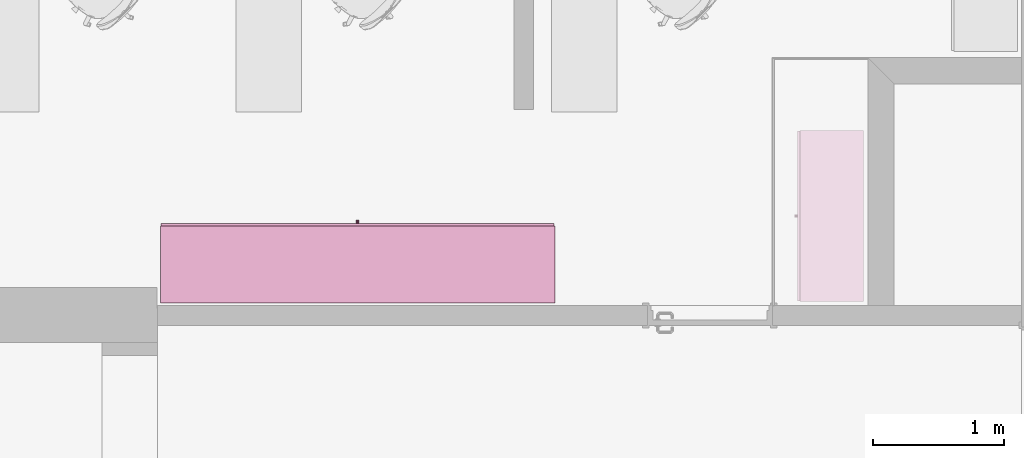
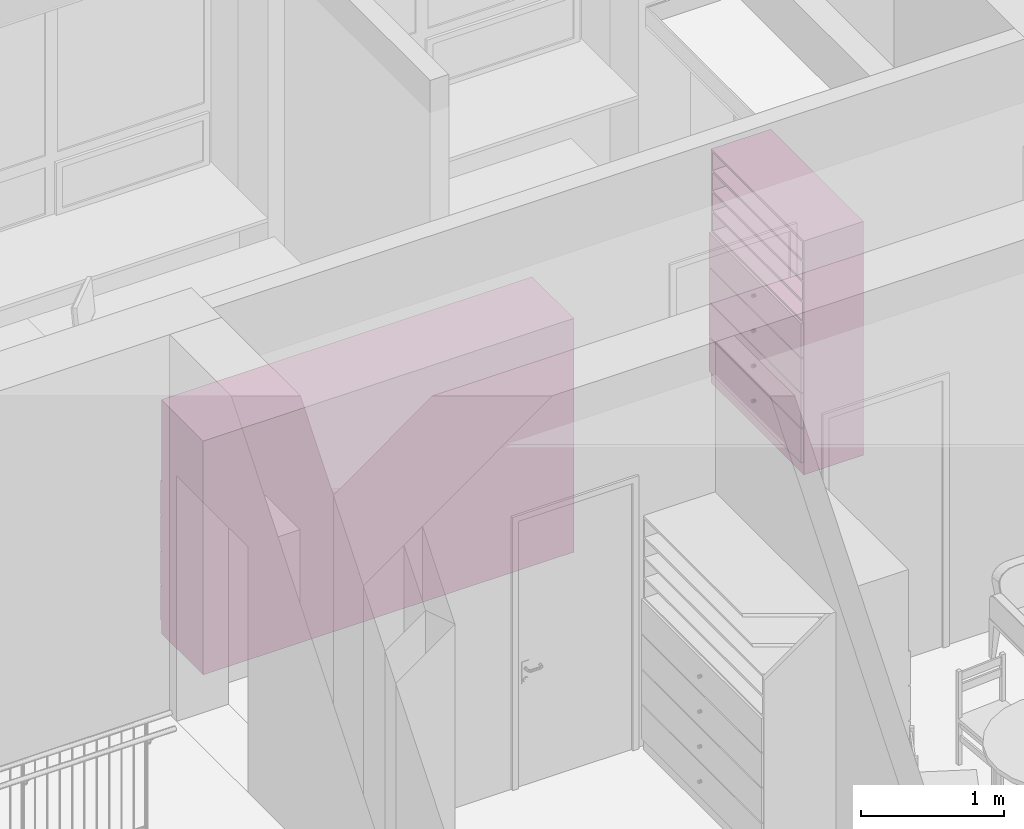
# One storey, part 164 of 194: 2 furnishings.
"""IFC2X3 building model written with IfcOpenShell, lengths in millimetres."""

from ifc_helpers import new_model, entity, si_unit, converted_unit, derived_unit, money_unit, direction, frame, origin_with_axes, place, context, subcontext, project, spatial, faceted_brep, type_object, element, save


model = new_model("IFC2X3")

# Units and contexts
model_context = context("Model", 3, precision=1e-05, world=origin_with_axes(), true_north=direction((0.0, 1.0)))
body_context = subcontext(model_context, "Body", "Model", "MODEL_VIEW")
ifc_project = project(units=[si_unit("LENGTHUNIT", "METRE", prefix="MILLI"), si_unit("AREAUNIT", "SQUARE_METRE"), si_unit("VOLUMEUNIT", "CUBIC_METRE"), converted_unit("PLANEANGLEUNIT", "DEGREE", entity("IfcPlaneAngleMeasure", 0.0174532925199), si_unit("PLANEANGLEUNIT", "RADIAN"), dimensions=[0, 0, 0, 0, 0, 0, 0]), si_unit("SOLIDANGLEUNIT", "STERADIAN"), money_unit("EUR"), converted_unit("TIMEUNIT", "Year", entity("IfcTimeMeasure", 31556926.0), si_unit("TIMEUNIT", "SECOND"), dimensions=[0, 0, 1, 0, 0, 0, 0]), si_unit("MASSUNIT", "GRAM", prefix="KILO"), si_unit("THERMODYNAMICTEMPERATUREUNIT", "DEGREE_CELSIUS"), si_unit("LUMINOUSINTENSITYUNIT", "LUMEN"), si_unit("ENERGYUNIT", "JOULE", prefix="MEGA"), derived_unit("THERMALCONDUCTANCEUNIT", [(si_unit("POWERUNIT", "WATT"), 1), (si_unit("LENGTHUNIT", "METRE"), -1), (si_unit("THERMODYNAMICTEMPERATUREUNIT", "KELVIN"), -1)]), derived_unit("SPECIFICHEATCAPACITYUNIT", [(si_unit("ENERGYUNIT", "JOULE"), 1), (si_unit("MASSUNIT", "GRAM", prefix="KILO"), -1), (si_unit("THERMODYNAMICTEMPERATUREUNIT", "KELVIN"), -1)]), derived_unit("MASSDENSITYUNIT", [(si_unit("MASSUNIT", "GRAM", prefix="KILO"), 1), (si_unit("VOLUMEUNIT", "CUBIC_METRE"), -1)])], contexts=[model_context])

# Site, building, storey
site_placement = place(None, origin_with_axes())
site = spatial("IfcSite", under=ifc_project, at=site_placement, Name="Site", CompositionType="ELEMENT")
building_placement = place(site_placement, origin_with_axes())
building = spatial("IfcBuilding", under=site, at=building_placement, Name="Building", CompositionType="ELEMENT")
storey_placement = place(building_placement, frame((0.0, 0.0, 3000.0), z_axis=(0.0, 0.0, 1.0), x_axis=(1.0, 0.0, 0.0)))
storey = spatial("IfcBuildingStorey", under=building, at=storey_placement, Name="2 KORRUS", CompositionType="ELEMENT", Elevation=3000.0)

# Furnishings
furnishing_element_type_1 = type_object("IfcFurnishingElementType", Name="Model Element 9")
furnishing_1_placement = place(storey_placement, frame((36028.7409007, 44283.4309311, 0.0), z_axis=(0.0, 0.0, 1.0), x_axis=(-0.000642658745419, -0.999999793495, 0.0)))
element("IfcFurnishingElement", 1, at=furnishing_1_placement, inside=storey, type_object=furnishing_element_type_1, Name="FU - 001", context=body_context, shape_type="Brep", body=[
    faceted_brep([(1300.32194222, 19.0, 0.0), (0.0, 19.0, 0.0), (0.0, 500.953504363, 0.0), (1300.32194222, 500.953504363, 0.0), (1300.32194222, 19.0, 100.0), (0.0, 19.0, 100.0), (0.0, 500.953504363, 100.0), (1300.32194222, 500.953504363, 100.0)], [[[0, 1, 2, 3]], [[1, 0, 4, 5]], [[2, 1, 5, 6]], [[3, 2, 6, 7]], [[0, 3, 7, 4]], [[5, 4, 7, 6]]]),
    faceted_brep([(19.0, 500.953504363, 119.0), (19.0, 481.953504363, 119.0), (19.0, 481.953504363, 1981.0), (19.0, 500.953504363, 1981.0), (1281.32194222, 500.953504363, 119.0), (1281.32194222, 481.953504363, 119.0), (1281.32194222, 481.953504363, 1981.0), (1281.32194222, 500.953504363, 1981.0)], [[[0, 1, 2, 3]], [[0, 4, 5, 1]], [[1, 5, 6, 2]], [[3, 2, 6, 7]], [[4, 0, 3, 7]], [[5, 4, 7, 6]]]),
    faceted_brep([(1300.32194222, 19.0, 100.0), (1281.32194222, 19.0, 100.0), (1281.32194222, 500.953504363, 100.0), (1300.32194222, 500.953504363, 100.0), (1300.32194222, 19.0, 2000.0), (1281.32194222, 19.0, 2000.0), (1281.32194222, 500.953504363, 2000.0), (1300.32194222, 500.953504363, 2000.0)], [[[0, 1, 2, 3]], [[1, 0, 4, 5]], [[2, 1, 5, 6]], [[3, 2, 6, 7]], [[0, 3, 7, 4]], [[5, 4, 7, 6]]]),
    faceted_brep([(19.0, 19.0, 100.0), (0.0, 19.0, 100.0), (0.0, 500.953504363, 100.0), (19.0, 500.953504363, 100.0), (19.0, 19.0, 2000.0), (0.0, 19.0, 2000.0), (0.0, 500.953504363, 2000.0), (19.0, 500.953504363, 2000.0)], [[[0, 1, 2, 3]], [[1, 0, 4, 5]], [[2, 1, 5, 6]], [[3, 2, 6, 7]], [[0, 3, 7, 4]], [[5, 4, 7, 6]]]),
    faceted_brep([(1281.32194222, 19.0, 100.0), (19.0, 19.0, 100.0), (19.0, 500.953504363, 100.0), (1281.32194222, 500.953504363, 100.0), (1281.32194222, 19.0, 119.0), (19.0, 19.0, 119.0), (19.0, 500.953504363, 119.0), (1281.32194222, 500.953504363, 119.0)], [[[0, 1, 2, 3]], [[1, 0, 4, 5]], [[2, 1, 5, 6]], [[3, 2, 6, 7]], [[0, 3, 7, 4]], [[5, 4, 7, 6]]]),
    faceted_brep([(1281.32194222, 19.0, 1981.0), (19.0, 19.0, 1981.0), (19.0, 500.953504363, 1981.0), (1281.32194222, 500.953504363, 1981.0), (1281.32194222, 19.0, 2000.0), (19.0, 19.0, 2000.0), (19.0, 500.953504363, 2000.0), (1281.32194222, 500.953504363, 2000.0)], [[[0, 1, 2, 3]], [[1, 0, 4, 5]], [[2, 1, 5, 6]], [[3, 2, 6, 7]], [[0, 3, 7, 4]], [[5, 4, 7, 6]]]),
    faceted_brep([(5.0, 19.0, 105.0), (1295.32194222, 19.0, 105.0), (1295.32194222, 0.0, 105.0), (5.0, 0.0, 105.0), (5.0, 19.0, 395.0), (1295.32194222, 19.0, 395.0), (1295.32194222, 0.0, 395.0), (5.0, 0.0, 395.0)], [[[0, 1, 2, 3]], [[0, 4, 5, 1]], [[1, 5, 6, 2]], [[3, 2, 6, 7]], [[4, 0, 3, 7]], [[5, 4, 7, 6]]]),
    faceted_brep([(660.553275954, 0.0, 244.0), (656.160971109, 0.0, 239.607695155), (650.160971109, 0.0, 238.0), (644.160971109, 0.0, 239.607695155), (639.768666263, 0.0, 244.0), (638.160971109, 0.0, 250.0), (639.768666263, 0.0, 256.0), (644.160971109, 0.0, 260.392304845), (650.160971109, 0.0, 262.0), (656.160971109, 0.0, 260.392304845), (660.553275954, 0.0, 256.0), (662.160971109, 0.0, 250.0), (660.553275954, -25.0, 244.0), (656.160971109, -25.0, 239.607695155), (650.160971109, -25.0, 238.0), (644.160971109, -25.0, 239.607695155), (639.768666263, -25.0, 244.0), (638.160971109, -25.0, 250.0), (639.768666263, -25.0, 256.0), (644.160971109, -25.0, 260.392304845), (650.160971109, -25.0, 262.0), (656.160971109, -25.0, 260.392304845), (660.553275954, -25.0, 256.0), (662.160971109, -25.0, 250.0)], [[[0, 1, 2, 3, 4, 5, 6, 7, 8, 9, 10, 11]], [[1, 0, 12, 13]], [[2, 1, 13, 14]], [[3, 2, 14, 15]], [[4, 3, 15, 16]], [[5, 4, 16, 17]], [[6, 5, 17, 18]], [[7, 6, 18, 19]], [[8, 7, 19, 20]], [[9, 8, 20, 21]], [[10, 9, 21, 22]], [[11, 10, 22, 23]], [[0, 11, 23, 12]], [[12, 23, 22, 21, 20, 19, 18, 17, 16, 15, 14, 13]]]),
    faceted_brep([(5.0, 19.0, 405.0), (1295.32194222, 19.0, 405.0), (1295.32194222, 0.0, 405.0), (5.0, 0.0, 405.0), (5.0, 19.0, 695.0), (1295.32194222, 19.0, 695.0), (1295.32194222, 0.0, 695.0), (5.0, 0.0, 695.0)], [[[0, 1, 2, 3]], [[0, 4, 5, 1]], [[1, 5, 6, 2]], [[3, 2, 6, 7]], [[4, 0, 3, 7]], [[5, 4, 7, 6]]]),
    faceted_brep([(660.553275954, 0.0, 544.0), (656.160971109, 0.0, 539.607695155), (650.160971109, 0.0, 538.0), (644.160971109, 0.0, 539.607695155), (639.768666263, 0.0, 544.0), (638.160971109, 0.0, 550.0), (639.768666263, 0.0, 556.0), (644.160971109, 0.0, 560.392304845), (650.160971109, 0.0, 562.0), (656.160971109, 0.0, 560.392304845), (660.553275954, 0.0, 556.0), (662.160971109, 0.0, 550.0), (660.553275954, -25.0, 544.0), (656.160971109, -25.0, 539.607695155), (650.160971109, -25.0, 538.0), (644.160971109, -25.0, 539.607695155), (639.768666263, -25.0, 544.0), (638.160971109, -25.0, 550.0), (639.768666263, -25.0, 556.0), (644.160971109, -25.0, 560.392304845), (650.160971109, -25.0, 562.0), (656.160971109, -25.0, 560.392304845), (660.553275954, -25.0, 556.0), (662.160971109, -25.0, 550.0)], [[[0, 1, 2, 3, 4, 5, 6, 7, 8, 9, 10, 11]], [[1, 0, 12, 13]], [[2, 1, 13, 14]], [[3, 2, 14, 15]], [[4, 3, 15, 16]], [[5, 4, 16, 17]], [[6, 5, 17, 18]], [[7, 6, 18, 19]], [[8, 7, 19, 20]], [[9, 8, 20, 21]], [[10, 9, 21, 22]], [[11, 10, 22, 23]], [[0, 11, 23, 12]], [[12, 23, 22, 21, 20, 19, 18, 17, 16, 15, 14, 13]]]),
    faceted_brep([(5.0, 19.0, 705.0), (1295.32194222, 19.0, 705.0), (1295.32194222, 0.0, 705.0), (5.0, 0.0, 705.0), (5.0, 19.0, 995.0), (1295.32194222, 19.0, 995.0), (1295.32194222, 0.0, 995.0), (5.0, 0.0, 995.0)], [[[0, 1, 2, 3]], [[0, 4, 5, 1]], [[1, 5, 6, 2]], [[3, 2, 6, 7]], [[4, 0, 3, 7]], [[5, 4, 7, 6]]]),
    faceted_brep([(660.553275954, 0.0, 844.0), (656.160971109, 0.0, 839.607695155), (650.160971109, 0.0, 838.0), (644.160971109, 0.0, 839.607695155), (639.768666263, 0.0, 844.0), (638.160971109, 0.0, 850.0), (639.768666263, 0.0, 856.0), (644.160971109, 0.0, 860.392304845), (650.160971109, 0.0, 862.0), (656.160971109, 0.0, 860.392304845), (660.553275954, 0.0, 856.0), (662.160971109, 0.0, 850.0), (660.553275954, -25.0, 844.0), (656.160971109, -25.0, 839.607695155), (650.160971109, -25.0, 838.0), (644.160971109, -25.0, 839.607695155), (639.768666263, -25.0, 844.0), (638.160971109, -25.0, 850.0), (639.768666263, -25.0, 856.0), (644.160971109, -25.0, 860.392304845), (650.160971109, -25.0, 862.0), (656.160971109, -25.0, 860.392304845), (660.553275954, -25.0, 856.0), (662.160971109, -25.0, 850.0)], [[[0, 1, 2, 3, 4, 5, 6, 7, 8, 9, 10, 11]], [[1, 0, 12, 13]], [[2, 1, 13, 14]], [[3, 2, 14, 15]], [[4, 3, 15, 16]], [[5, 4, 16, 17]], [[6, 5, 17, 18]], [[7, 6, 18, 19]], [[8, 7, 19, 20]], [[9, 8, 20, 21]], [[10, 9, 21, 22]], [[11, 10, 22, 23]], [[0, 11, 23, 12]], [[12, 23, 22, 21, 20, 19, 18, 17, 16, 15, 14, 13]]]),
    faceted_brep([(5.0, 19.0, 1005.0), (1295.32194222, 19.0, 1005.0), (1295.32194222, 0.0, 1005.0), (5.0, 0.0, 1005.0), (5.0, 19.0, 1295.0), (1295.32194222, 19.0, 1295.0), (1295.32194222, 0.0, 1295.0), (5.0, 0.0, 1295.0)], [[[0, 1, 2, 3]], [[0, 4, 5, 1]], [[1, 5, 6, 2]], [[3, 2, 6, 7]], [[4, 0, 3, 7]], [[5, 4, 7, 6]]]),
    faceted_brep([(660.553275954, 0.0, 1144.0), (656.160971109, 0.0, 1139.60769515), (650.160971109, 0.0, 1138.0), (644.160971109, 0.0, 1139.60769515), (639.768666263, 0.0, 1144.0), (638.160971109, 0.0, 1150.0), (639.768666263, 0.0, 1156.0), (644.160971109, 0.0, 1160.39230485), (650.160971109, 0.0, 1162.0), (656.160971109, 0.0, 1160.39230485), (660.553275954, 0.0, 1156.0), (662.160971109, 0.0, 1150.0), (660.553275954, -25.0, 1144.0), (656.160971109, -25.0, 1139.60769515), (650.160971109, -25.0, 1138.0), (644.160971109, -25.0, 1139.60769515), (639.768666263, -25.0, 1144.0), (638.160971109, -25.0, 1150.0), (639.768666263, -25.0, 1156.0), (644.160971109, -25.0, 1160.39230485), (650.160971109, -25.0, 1162.0), (656.160971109, -25.0, 1160.39230485), (660.553275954, -25.0, 1156.0), (662.160971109, -25.0, 1150.0)], [[[0, 1, 2, 3, 4, 5, 6, 7, 8, 9, 10, 11]], [[1, 0, 12, 13]], [[2, 1, 13, 14]], [[3, 2, 14, 15]], [[4, 3, 15, 16]], [[5, 4, 16, 17]], [[6, 5, 17, 18]], [[7, 6, 18, 19]], [[8, 7, 19, 20]], [[9, 8, 20, 21]], [[10, 9, 21, 22]], [[11, 10, 22, 23]], [[0, 11, 23, 12]], [[12, 23, 22, 21, 20, 19, 18, 17, 16, 15, 14, 13]]]),
    faceted_brep([(19.0, 19.0, 390.5), (1281.32194222, 19.0, 390.5), (1281.32194222, 19.0, 409.5), (19.0, 19.0, 409.5), (19.0, 481.953504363, 390.5), (1281.32194222, 481.953504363, 390.5), (1281.32194222, 481.953504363, 409.5), (19.0, 481.953504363, 409.5)], [[[0, 1, 2, 3]], [[0, 4, 5, 1]], [[1, 5, 6, 2]], [[3, 2, 6, 7]], [[4, 0, 3, 7]], [[5, 4, 7, 6]]]),
    faceted_brep([(19.0, 19.0, 690.5), (1281.32194222, 19.0, 690.5), (1281.32194222, 19.0, 709.5), (19.0, 19.0, 709.5), (19.0, 481.953504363, 690.5), (1281.32194222, 481.953504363, 690.5), (1281.32194222, 481.953504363, 709.5), (19.0, 481.953504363, 709.5)], [[[0, 1, 2, 3]], [[0, 4, 5, 1]], [[1, 5, 6, 2]], [[3, 2, 6, 7]], [[4, 0, 3, 7]], [[5, 4, 7, 6]]]),
    faceted_brep([(19.0, 19.0, 990.5), (1281.32194222, 19.0, 990.5), (1281.32194222, 19.0, 1009.5), (19.0, 19.0, 1009.5), (19.0, 481.953504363, 990.5), (1281.32194222, 481.953504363, 990.5), (1281.32194222, 481.953504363, 1009.5), (19.0, 481.953504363, 1009.5)], [[[0, 1, 2, 3]], [[0, 4, 5, 1]], [[1, 5, 6, 2]], [[3, 2, 6, 7]], [[4, 0, 3, 7]], [[5, 4, 7, 6]]]),
    faceted_brep([(19.0, 19.0, 1290.5), (1281.32194222, 19.0, 1290.5), (1281.32194222, 19.0, 1309.5), (19.0, 19.0, 1309.5), (19.0, 481.953504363, 1290.5), (1281.32194222, 481.953504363, 1290.5), (1281.32194222, 481.953504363, 1309.5), (19.0, 481.953504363, 1309.5)], [[[0, 1, 2, 3]], [[0, 4, 5, 1]], [[1, 5, 6, 2]], [[3, 2, 6, 7]], [[4, 0, 3, 7]], [[5, 4, 7, 6]]]),
    faceted_brep([(1281.32194222, 19.0, 1463.125), (19.0, 19.0, 1463.125), (19.0, 481.953504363, 1463.125), (1281.32194222, 481.953504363, 1463.125), (1281.32194222, 19.0, 1482.125), (19.0, 19.0, 1482.125), (19.0, 481.953504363, 1482.125), (1281.32194222, 481.953504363, 1482.125)], [[[0, 1, 2, 3]], [[1, 0, 4, 5]], [[2, 1, 5, 6]], [[3, 2, 6, 7]], [[0, 3, 7, 4]], [[5, 4, 7, 6]]]),
    faceted_brep([(1281.32194222, 19.0, 1635.75), (19.0, 19.0, 1635.75), (19.0, 481.953504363, 1635.75), (1281.32194222, 481.953504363, 1635.75), (1281.32194222, 19.0, 1654.75), (19.0, 19.0, 1654.75), (19.0, 481.953504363, 1654.75), (1281.32194222, 481.953504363, 1654.75)], [[[0, 1, 2, 3]], [[1, 0, 4, 5]], [[2, 1, 5, 6]], [[3, 2, 6, 7]], [[0, 3, 7, 4]], [[5, 4, 7, 6]]]),
    faceted_brep([(1281.32194222, 19.0, 1808.375), (19.0, 19.0, 1808.375), (19.0, 481.953504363, 1808.375), (1281.32194222, 481.953504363, 1808.375), (1281.32194222, 19.0, 1827.375), (19.0, 19.0, 1827.375), (19.0, 481.953504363, 1827.375), (1281.32194222, 481.953504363, 1827.375)], [[[0, 1, 2, 3]], [[1, 0, 4, 5]], [[2, 1, 5, 6]], [[3, 2, 6, 7]], [[0, 3, 7, 4]], [[5, 4, 7, 6]]]),
])
furnishing_element_type_2 = type_object("IfcFurnishingElementType", Name="Model Element 6")
furnishing_2_placement = place(storey_placement, frame((34180.43983, 43576.417355, 0.0), z_axis=(0.0, 0.0, 1.0), x_axis=(-1.0, 0.0, 0.0)))
element("IfcFurnishingElement", 2, at=furnishing_2_placement, inside=storey, type_object=furnishing_element_type_2, Name="FU - 001", context=body_context, shape_type="Brep", body=[
    faceted_brep([(3000.0, 19.0, 0.0), (0.0, 19.0, 0.0), (0.0, 605.420194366, 0.0), (3000.0, 605.420194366, 0.0), (3000.0, 19.0, 100.0), (0.0, 19.0, 100.0), (0.0, 605.420194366, 100.0), (3000.0, 605.420194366, 100.0)], [[[0, 1, 2, 3]], [[1, 0, 4, 5]], [[2, 1, 5, 6]], [[3, 2, 6, 7]], [[0, 3, 7, 4]], [[5, 4, 7, 6]]]),
    faceted_brep([(19.0, 605.420194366, 119.0), (19.0, 586.420194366, 119.0), (19.0, 586.420194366, 1981.0), (19.0, 605.420194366, 1981.0), (2981.0, 605.420194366, 119.0), (2981.0, 586.420194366, 119.0), (2981.0, 586.420194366, 1981.0), (2981.0, 605.420194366, 1981.0)], [[[0, 1, 2, 3]], [[0, 4, 5, 1]], [[1, 5, 6, 2]], [[3, 2, 6, 7]], [[4, 0, 3, 7]], [[5, 4, 7, 6]]]),
    faceted_brep([(3000.0, 19.0, 100.0), (2981.0, 19.0, 100.0), (2981.0, 605.420194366, 100.0), (3000.0, 605.420194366, 100.0), (3000.0, 19.0, 2000.0), (2981.0, 19.0, 2000.0), (2981.0, 605.420194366, 2000.0), (3000.0, 605.420194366, 2000.0)], [[[0, 1, 2, 3]], [[1, 0, 4, 5]], [[2, 1, 5, 6]], [[3, 2, 6, 7]], [[0, 3, 7, 4]], [[5, 4, 7, 6]]]),
    faceted_brep([(19.0, 19.0, 100.0), (0.0, 19.0, 100.0), (0.0, 605.420194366, 100.0), (19.0, 605.420194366, 100.0), (19.0, 19.0, 2000.0), (0.0, 19.0, 2000.0), (0.0, 605.420194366, 2000.0), (19.0, 605.420194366, 2000.0)], [[[0, 1, 2, 3]], [[1, 0, 4, 5]], [[2, 1, 5, 6]], [[3, 2, 6, 7]], [[0, 3, 7, 4]], [[5, 4, 7, 6]]]),
    faceted_brep([(2981.0, 19.0, 100.0), (19.0, 19.0, 100.0), (19.0, 605.420194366, 100.0), (2981.0, 605.420194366, 100.0), (2981.0, 19.0, 119.0), (19.0, 19.0, 119.0), (19.0, 605.420194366, 119.0), (2981.0, 605.420194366, 119.0)], [[[0, 1, 2, 3]], [[1, 0, 4, 5]], [[2, 1, 5, 6]], [[3, 2, 6, 7]], [[0, 3, 7, 4]], [[5, 4, 7, 6]]]),
    faceted_brep([(2981.0, 19.0, 1981.0), (19.0, 19.0, 1981.0), (19.0, 605.420194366, 1981.0), (2981.0, 605.420194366, 1981.0), (2981.0, 19.0, 2000.0), (19.0, 19.0, 2000.0), (19.0, 605.420194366, 2000.0), (2981.0, 605.420194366, 2000.0)], [[[0, 1, 2, 3]], [[1, 0, 4, 5]], [[2, 1, 5, 6]], [[3, 2, 6, 7]], [[0, 3, 7, 4]], [[5, 4, 7, 6]]]),
    faceted_brep([(5.0, 19.0, 105.0), (2995.0, 19.0, 105.0), (2995.0, 0.0, 105.0), (5.0, 0.0, 105.0), (5.0, 19.0, 395.0), (2995.0, 19.0, 395.0), (2995.0, 0.0, 395.0), (5.0, 0.0, 395.0)], [[[0, 1, 2, 3]], [[0, 4, 5, 1]], [[1, 5, 6, 2]], [[3, 2, 6, 7]], [[4, 0, 3, 7]], [[5, 4, 7, 6]]]),
    faceted_brep([(1510.39230485, 0.0, 244.0), (1506.0, 0.0, 239.607695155), (1500.0, 0.0, 238.0), (1494.0, 0.0, 239.607695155), (1489.60769515, 0.0, 244.0), (1488.0, 0.0, 250.0), (1489.60769515, 0.0, 256.0), (1494.0, 0.0, 260.392304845), (1500.0, 0.0, 262.0), (1506.0, 0.0, 260.392304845), (1510.39230485, 0.0, 256.0), (1512.0, 0.0, 250.0), (1510.39230485, -25.0, 244.0), (1506.0, -25.0, 239.607695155), (1500.0, -25.0, 238.0), (1494.0, -25.0, 239.607695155), (1489.60769515, -25.0, 244.0), (1488.0, -25.0, 250.0), (1489.60769515, -25.0, 256.0), (1494.0, -25.0, 260.392304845), (1500.0, -25.0, 262.0), (1506.0, -25.0, 260.392304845), (1510.39230485, -25.0, 256.0), (1512.0, -25.0, 250.0)], [[[0, 1, 2, 3, 4, 5, 6, 7, 8, 9, 10, 11]], [[1, 0, 12, 13]], [[2, 1, 13, 14]], [[3, 2, 14, 15]], [[4, 3, 15, 16]], [[5, 4, 16, 17]], [[6, 5, 17, 18]], [[7, 6, 18, 19]], [[8, 7, 19, 20]], [[9, 8, 20, 21]], [[10, 9, 21, 22]], [[11, 10, 22, 23]], [[0, 11, 23, 12]], [[12, 23, 22, 21, 20, 19, 18, 17, 16, 15, 14, 13]]]),
    faceted_brep([(5.0, 19.0, 405.0), (2995.0, 19.0, 405.0), (2995.0, 0.0, 405.0), (5.0, 0.0, 405.0), (5.0, 19.0, 695.0), (2995.0, 19.0, 695.0), (2995.0, 0.0, 695.0), (5.0, 0.0, 695.0)], [[[0, 1, 2, 3]], [[0, 4, 5, 1]], [[1, 5, 6, 2]], [[3, 2, 6, 7]], [[4, 0, 3, 7]], [[5, 4, 7, 6]]]),
    faceted_brep([(1510.39230485, 0.0, 544.0), (1506.0, 0.0, 539.607695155), (1500.0, 0.0, 538.0), (1494.0, 0.0, 539.607695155), (1489.60769515, 0.0, 544.0), (1488.0, 0.0, 550.0), (1489.60769515, 0.0, 556.0), (1494.0, 0.0, 560.392304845), (1500.0, 0.0, 562.0), (1506.0, 0.0, 560.392304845), (1510.39230485, 0.0, 556.0), (1512.0, 0.0, 550.0), (1510.39230485, -25.0, 544.0), (1506.0, -25.0, 539.607695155), (1500.0, -25.0, 538.0), (1494.0, -25.0, 539.607695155), (1489.60769515, -25.0, 544.0), (1488.0, -25.0, 550.0), (1489.60769515, -25.0, 556.0), (1494.0, -25.0, 560.392304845), (1500.0, -25.0, 562.0), (1506.0, -25.0, 560.392304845), (1510.39230485, -25.0, 556.0), (1512.0, -25.0, 550.0)], [[[0, 1, 2, 3, 4, 5, 6, 7, 8, 9, 10, 11]], [[1, 0, 12, 13]], [[2, 1, 13, 14]], [[3, 2, 14, 15]], [[4, 3, 15, 16]], [[5, 4, 16, 17]], [[6, 5, 17, 18]], [[7, 6, 18, 19]], [[8, 7, 19, 20]], [[9, 8, 20, 21]], [[10, 9, 21, 22]], [[11, 10, 22, 23]], [[0, 11, 23, 12]], [[12, 23, 22, 21, 20, 19, 18, 17, 16, 15, 14, 13]]]),
    faceted_brep([(5.0, 19.0, 705.0), (2995.0, 19.0, 705.0), (2995.0, 0.0, 705.0), (5.0, 0.0, 705.0), (5.0, 19.0, 995.0), (2995.0, 19.0, 995.0), (2995.0, 0.0, 995.0), (5.0, 0.0, 995.0)], [[[0, 1, 2, 3]], [[0, 4, 5, 1]], [[1, 5, 6, 2]], [[3, 2, 6, 7]], [[4, 0, 3, 7]], [[5, 4, 7, 6]]]),
    faceted_brep([(1510.39230485, 0.0, 844.0), (1506.0, 0.0, 839.607695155), (1500.0, 0.0, 838.0), (1494.0, 0.0, 839.607695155), (1489.60769515, 0.0, 844.0), (1488.0, 0.0, 850.0), (1489.60769515, 0.0, 856.0), (1494.0, 0.0, 860.392304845), (1500.0, 0.0, 862.0), (1506.0, 0.0, 860.392304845), (1510.39230485, 0.0, 856.0), (1512.0, 0.0, 850.0), (1510.39230485, -25.0, 844.0), (1506.0, -25.0, 839.607695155), (1500.0, -25.0, 838.0), (1494.0, -25.0, 839.607695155), (1489.60769515, -25.0, 844.0), (1488.0, -25.0, 850.0), (1489.60769515, -25.0, 856.0), (1494.0, -25.0, 860.392304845), (1500.0, -25.0, 862.0), (1506.0, -25.0, 860.392304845), (1510.39230485, -25.0, 856.0), (1512.0, -25.0, 850.0)], [[[0, 1, 2, 3, 4, 5, 6, 7, 8, 9, 10, 11]], [[1, 0, 12, 13]], [[2, 1, 13, 14]], [[3, 2, 14, 15]], [[4, 3, 15, 16]], [[5, 4, 16, 17]], [[6, 5, 17, 18]], [[7, 6, 18, 19]], [[8, 7, 19, 20]], [[9, 8, 20, 21]], [[10, 9, 21, 22]], [[11, 10, 22, 23]], [[0, 11, 23, 12]], [[12, 23, 22, 21, 20, 19, 18, 17, 16, 15, 14, 13]]]),
    faceted_brep([(5.0, 19.0, 1005.0), (2995.0, 19.0, 1005.0), (2995.0, 0.0, 1005.0), (5.0, 0.0, 1005.0), (5.0, 19.0, 1295.0), (2995.0, 19.0, 1295.0), (2995.0, 0.0, 1295.0), (5.0, 0.0, 1295.0)], [[[0, 1, 2, 3]], [[0, 4, 5, 1]], [[1, 5, 6, 2]], [[3, 2, 6, 7]], [[4, 0, 3, 7]], [[5, 4, 7, 6]]]),
    faceted_brep([(1510.39230485, 0.0, 1144.0), (1506.0, 0.0, 1139.60769515), (1500.0, 0.0, 1138.0), (1494.0, 0.0, 1139.60769515), (1489.60769515, 0.0, 1144.0), (1488.0, 0.0, 1150.0), (1489.60769515, 0.0, 1156.0), (1494.0, 0.0, 1160.39230485), (1500.0, 0.0, 1162.0), (1506.0, 0.0, 1160.39230485), (1510.39230485, 0.0, 1156.0), (1512.0, 0.0, 1150.0), (1510.39230485, -25.0, 1144.0), (1506.0, -25.0, 1139.60769515), (1500.0, -25.0, 1138.0), (1494.0, -25.0, 1139.60769515), (1489.60769515, -25.0, 1144.0), (1488.0, -25.0, 1150.0), (1489.60769515, -25.0, 1156.0), (1494.0, -25.0, 1160.39230485), (1500.0, -25.0, 1162.0), (1506.0, -25.0, 1160.39230485), (1510.39230485, -25.0, 1156.0), (1512.0, -25.0, 1150.0)], [[[0, 1, 2, 3, 4, 5, 6, 7, 8, 9, 10, 11]], [[1, 0, 12, 13]], [[2, 1, 13, 14]], [[3, 2, 14, 15]], [[4, 3, 15, 16]], [[5, 4, 16, 17]], [[6, 5, 17, 18]], [[7, 6, 18, 19]], [[8, 7, 19, 20]], [[9, 8, 20, 21]], [[10, 9, 21, 22]], [[11, 10, 22, 23]], [[0, 11, 23, 12]], [[12, 23, 22, 21, 20, 19, 18, 17, 16, 15, 14, 13]]]),
    faceted_brep([(19.0, 19.0, 390.5), (2981.0, 19.0, 390.5), (2981.0, 19.0, 409.5), (19.0, 19.0, 409.5), (19.0, 586.420194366, 390.5), (2981.0, 586.420194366, 390.5), (2981.0, 586.420194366, 409.5), (19.0, 586.420194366, 409.5)], [[[0, 1, 2, 3]], [[0, 4, 5, 1]], [[1, 5, 6, 2]], [[3, 2, 6, 7]], [[4, 0, 3, 7]], [[5, 4, 7, 6]]]),
    faceted_brep([(19.0, 19.0, 690.5), (2981.0, 19.0, 690.5), (2981.0, 19.0, 709.5), (19.0, 19.0, 709.5), (19.0, 586.420194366, 690.5), (2981.0, 586.420194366, 690.5), (2981.0, 586.420194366, 709.5), (19.0, 586.420194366, 709.5)], [[[0, 1, 2, 3]], [[0, 4, 5, 1]], [[1, 5, 6, 2]], [[3, 2, 6, 7]], [[4, 0, 3, 7]], [[5, 4, 7, 6]]]),
    faceted_brep([(19.0, 19.0, 990.5), (2981.0, 19.0, 990.5), (2981.0, 19.0, 1009.5), (19.0, 19.0, 1009.5), (19.0, 586.420194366, 990.5), (2981.0, 586.420194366, 990.5), (2981.0, 586.420194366, 1009.5), (19.0, 586.420194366, 1009.5)], [[[0, 1, 2, 3]], [[0, 4, 5, 1]], [[1, 5, 6, 2]], [[3, 2, 6, 7]], [[4, 0, 3, 7]], [[5, 4, 7, 6]]]),
    faceted_brep([(19.0, 19.0, 1290.5), (2981.0, 19.0, 1290.5), (2981.0, 19.0, 1309.5), (19.0, 19.0, 1309.5), (19.0, 586.420194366, 1290.5), (2981.0, 586.420194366, 1290.5), (2981.0, 586.420194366, 1309.5), (19.0, 586.420194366, 1309.5)], [[[0, 1, 2, 3]], [[0, 4, 5, 1]], [[1, 5, 6, 2]], [[3, 2, 6, 7]], [[4, 0, 3, 7]], [[5, 4, 7, 6]]]),
    faceted_brep([(2981.0, 19.0, 1463.125), (19.0, 19.0, 1463.125), (19.0, 586.420194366, 1463.125), (2981.0, 586.420194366, 1463.125), (2981.0, 19.0, 1482.125), (19.0, 19.0, 1482.125), (19.0, 586.420194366, 1482.125), (2981.0, 586.420194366, 1482.125)], [[[0, 1, 2, 3]], [[1, 0, 4, 5]], [[2, 1, 5, 6]], [[3, 2, 6, 7]], [[0, 3, 7, 4]], [[5, 4, 7, 6]]]),
    faceted_brep([(2981.0, 19.0, 1635.75), (19.0, 19.0, 1635.75), (19.0, 586.420194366, 1635.75), (2981.0, 586.420194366, 1635.75), (2981.0, 19.0, 1654.75), (19.0, 19.0, 1654.75), (19.0, 586.420194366, 1654.75), (2981.0, 586.420194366, 1654.75)], [[[0, 1, 2, 3]], [[1, 0, 4, 5]], [[2, 1, 5, 6]], [[3, 2, 6, 7]], [[0, 3, 7, 4]], [[5, 4, 7, 6]]]),
    faceted_brep([(2981.0, 19.0, 1808.375), (19.0, 19.0, 1808.375), (19.0, 586.420194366, 1808.375), (2981.0, 586.420194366, 1808.375), (2981.0, 19.0, 1827.375), (19.0, 19.0, 1827.375), (19.0, 586.420194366, 1827.375), (2981.0, 586.420194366, 1827.375)], [[[0, 1, 2, 3]], [[1, 0, 4, 5]], [[2, 1, 5, 6]], [[3, 2, 6, 7]], [[0, 3, 7, 4]], [[5, 4, 7, 6]]]),
])

save(model, "model.ifc")
